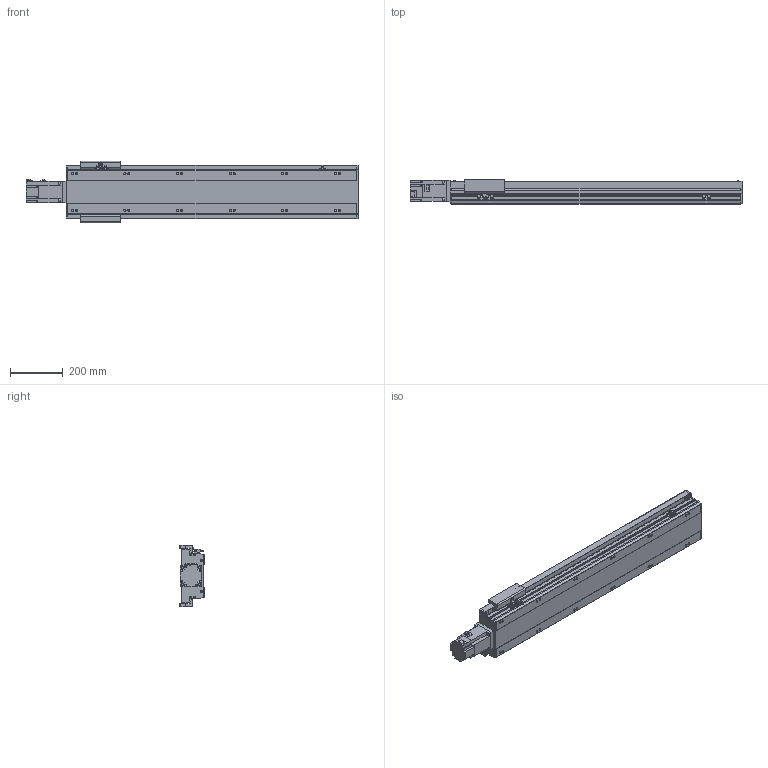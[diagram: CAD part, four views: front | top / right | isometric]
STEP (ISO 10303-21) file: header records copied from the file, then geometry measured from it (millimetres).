
FILE_DESCRIPTION(/* description */ ('STEP AP214'),/* implementation_level */ '2;1');
FILE_NAME(/* name */ 'PSM170-L10-S850-BC-T75-C1-N(0)',/* time_stamp */ '2022-06-29T08:54:18+02:00',/* author */ ('License CC BY-ND 4.0'),/* organization */ ('CADENAS'),/* preprocessor_version */ 'ST-DEVELOPER v18.102',/* originating_system */ 'PARTsolutions',/* authorisation */ ' ');
FILE_SCHEMA (('AUTOMOTIVE_DESIGN {1 0 10303 214 3 1 1}'));
Length unit declared in the file: millimetre
Products named in the file (8): PSM170-L10-S850-BC-T75-C1-N(0); PSM-Sensor; PSM140-S850-1092.5; T75-p1; PSM170_body2; PSM170_body3; PSM170-S850_body1; PSM170-L10-S850-BC-T75-C1-N(0)_dummy
Assembly tree (11 placements, depth 2):
  PSM170-L10-S850-BC-T75-C1-N(0)
    PSM-Sensor  x3
    PSM140-S850-1092.5  x3
    T75-p1
    PSM170_body2
    PSM170_body3
    PSM170-S850_body1
    PSM170-L10-S850-BC-T75-C1-N(0)_dummy
Bounding box: 1261.3 x 92 x 233 mm (x, y, z)
Volume: 7572630.4 mm3; surface area: 1452988.9 mm2
Topology: 10 solids, 10 shells, 1059 faces, 2828 edges, 1841 vertices
Faces by surface type: plane 660, cylinder 321, cone 64, torus 14
Full cylindrical faces by diameter (mm): 2.8 x3, 3.08 x1, 4.134 x4, 4.5 x12, 4.6 x3, 5.7 x2, 6 x9, 6.647 x20, 7 x8, 7.6 x4, 8 x8, 8.5 x12, 10 x4, 14 x12, 45 x1, 70 x1
Entity records: 27882 total; most frequent: CARTESIAN_POINT 5142, DIRECTION 4648, ORIENTED_EDGE 4460, EDGE_CURVE 2230, AXIS2_PLACEMENT_3D 1573, VERTEX_POINT 1562, LINE 1502, VECTOR 1502
